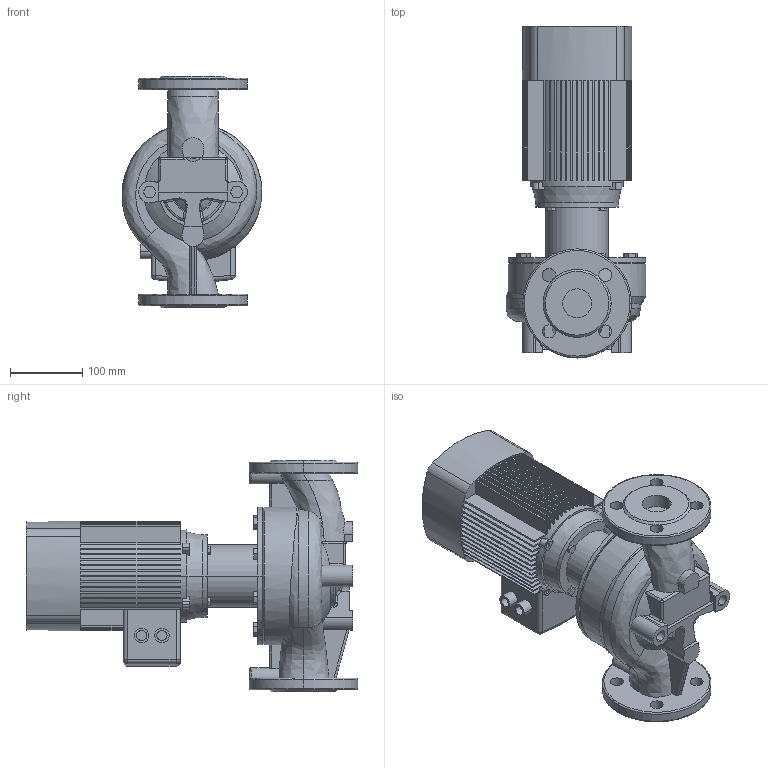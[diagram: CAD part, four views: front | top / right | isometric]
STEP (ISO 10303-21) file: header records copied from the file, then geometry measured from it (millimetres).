
FILE_DESCRIPTION (( 'STEP AP203' ), '1' );
FILE_NAME ('TD40-14G_2.STEP', '2022-05-02T14:02:16', ( '' ), ( '' ), 'SwSTEP 2.0', 'SolidWorks 2019', '' );
FILE_SCHEMA (( 'CONFIG_CONTROL_DESIGN' ));
Length unit declared in the file: millimetre
Products named in the file (4): Fon_40_TD40-14G_2; ED_B14_YE2-80M1-2 (0.75); Pr_ch 40_TD40-14G_2; TD40-14G_2
Assembly tree (3 placements, depth 2):
  TD40-14G_2
    Pr_ch 40_TD40-14G_2
    Fon_40_TD40-14G_2
    ED_B14_YE2-80M1-2 (0.75)
Bounding box: 193.06 x 458 x 320 mm (x, y, z)
Volume: 8299857 mm3; surface area: 711266.4 mm2
Topology: 3 solids, 5 shells, 649 faces, 1750 edges, 1140 vertices
Faces by surface type: plane 400, cylinder 167, bspline 35, torus 26, cone 11, sphere 10
Entity records: 26272 total; most frequent: CARTESIAN_POINT 9466, ORIENTED_EDGE 3492, DIRECTION 3415, EDGE_CURVE 1746, AXIS2_PLACEMENT_3D 1231, VERTEX_POINT 1140, LINE 953, VECTOR 953
